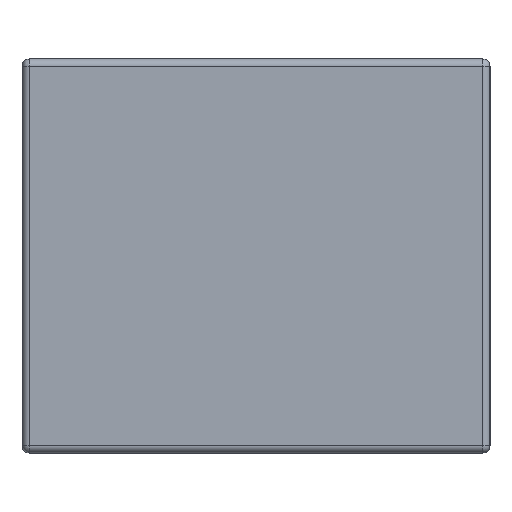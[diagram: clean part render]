
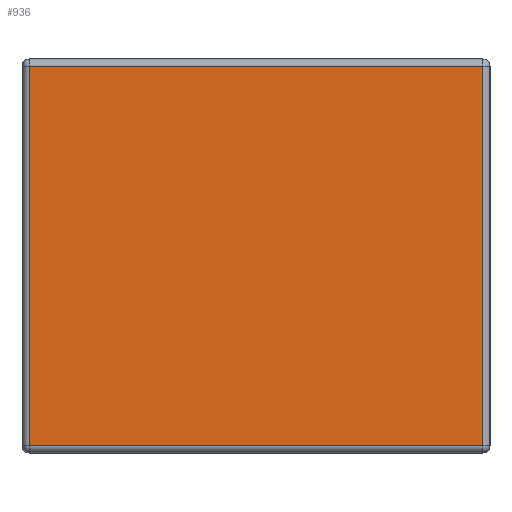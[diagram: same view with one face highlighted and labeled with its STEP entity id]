
A CAD part, left-side view. The second image highlights one B-rep face of the part: STEP entity #936.
In plain terms, the highlighted planar face has unit normal (-1, 0, 0).
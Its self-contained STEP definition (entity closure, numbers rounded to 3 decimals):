
#12 = VECTOR ( 'NONE', #730, 1000. ) ;
#31 = ORIENTED_EDGE ( 'NONE', *, *, #223, .T. ) ;
#44 = VECTOR ( 'NONE', #1019, 1000. ) ;
#134 = LINE ( 'NONE', #495, #12 ) ;
#193 = DIRECTION ( 'NONE',  ( 0., 0., -1. ) ) ;
#223 = EDGE_CURVE ( 'NONE', #1104, #711, #134, .T. ) ;
#247 = ORIENTED_EDGE ( 'NONE', *, *, #443, .T. ) ;
#260 = FACE_OUTER_BOUND ( 'NONE', #626, .T. ) ;
#273 = VECTOR ( 'NONE', #1032, 1000. ) ;
#330 = CARTESIAN_POINT ( 'NONE',  ( -1.6, 1.9, -0.77 ) ) ;
#388 = EDGE_CURVE ( 'NONE', #461, #689, #520, .T. ) ;
#443 = EDGE_CURVE ( 'NONE', #689, #1104, #1101, .T. ) ;
#461 = VERTEX_POINT ( 'NONE', #1003 ) ;
#495 = CARTESIAN_POINT ( 'NONE',  ( -1.6, 1.9, 0.77 ) ) ;
#517 = LINE ( 'NONE', #544, #973 ) ;
#520 = LINE ( 'NONE', #330, #273 ) ;
#544 = CARTESIAN_POINT ( 'NONE',  ( -1.6, 1.87, 0.8 ) ) ;
#563 = AXIS2_PLACEMENT_3D ( 'NONE', #1047, #777, #615 ) ;
#615 = DIRECTION ( 'NONE',  ( 0., 0., -1. ) ) ;
#626 = EDGE_LOOP ( 'NONE', ( #1099, #788, #247, #31 ) ) ;
#689 = VERTEX_POINT ( 'NONE', #793 ) ;
#711 = VERTEX_POINT ( 'NONE', #883 ) ;
#730 = DIRECTION ( 'NONE',  ( 0., 1., 0. ) ) ;
#777 = DIRECTION ( 'NONE',  ( 1., 0., 0. ) ) ;
#788 = ORIENTED_EDGE ( 'NONE', *, *, #388, .T. ) ;
#793 = CARTESIAN_POINT ( 'NONE',  ( -1.6, 0.03, -0.77 ) ) ;
#828 = CARTESIAN_POINT ( 'NONE',  ( -1.6, 0.03, 0.8 ) ) ;
#867 = PLANE ( 'NONE',  #563 ) ;
#883 = CARTESIAN_POINT ( 'NONE',  ( -1.6, 1.87, 0.77 ) ) ;
#936 = ADVANCED_FACE ( 'NONE', ( #260 ), #867, .F. ) ;
#973 = VECTOR ( 'NONE', #193, 1000. ) ;
#996 = CARTESIAN_POINT ( 'NONE',  ( -1.6, 0.03, 0.77 ) ) ;
#1003 = CARTESIAN_POINT ( 'NONE',  ( -1.6, 1.87, -0.77 ) ) ;
#1019 = DIRECTION ( 'NONE',  ( 0., 0., 1. ) ) ;
#1032 = DIRECTION ( 'NONE',  ( 0., -1., 0. ) ) ;
#1047 = CARTESIAN_POINT ( 'NONE',  ( -1.6, 1.9, 0.8 ) ) ;
#1059 = EDGE_CURVE ( 'NONE', #711, #461, #517, .T. ) ;
#1099 = ORIENTED_EDGE ( 'NONE', *, *, #1059, .T. ) ;
#1101 = LINE ( 'NONE', #828, #44 ) ;
#1104 = VERTEX_POINT ( 'NONE', #996 ) ;
